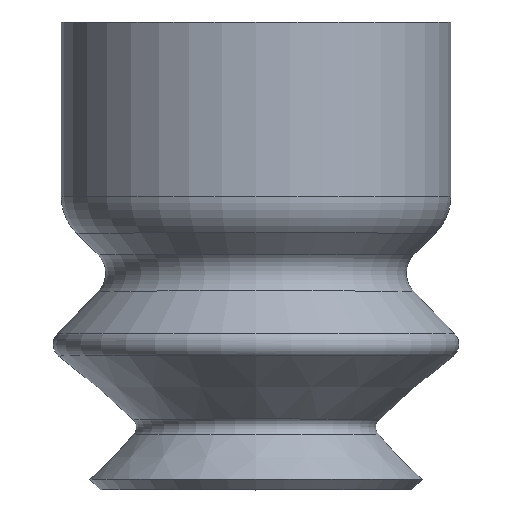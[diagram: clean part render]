
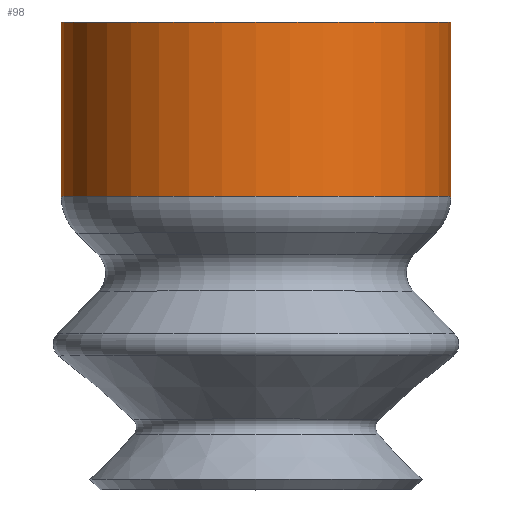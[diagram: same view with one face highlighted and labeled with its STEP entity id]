
A CAD part, top view. The second image highlights one B-rep face of the part: STEP entity #98.
In plain terms, the highlighted cylindrical face has radius 3.75 mm (diameter 7.5 mm), a full revolution.
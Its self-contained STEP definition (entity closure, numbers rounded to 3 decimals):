
#98=ADVANCED_FACE('',(#170,#171),#172,.T.);
#170=FACE_OUTER_BOUND('',#245,.T.);
#171=FACE_OUTER_BOUND('',#246,.T.);
#172=CYLINDRICAL_SURFACE('',#247,3.75);
#245=EDGE_LOOP('',(#366));
#246=EDGE_LOOP('',(#367));
#247=AXIS2_PLACEMENT_3D('',#368,#369,#370);
#366=ORIENTED_EDGE('',*,*,#389,.T.);
#367=ORIENTED_EDGE('',*,*,#400,.T.);
#368=CARTESIAN_POINT('',(0.0,0.0,0.0));
#369=DIRECTION('',(0.0,-1.0,0.));
#370=DIRECTION('',(0.0,0.,-1.0));
#389=EDGE_CURVE('',#427,#427,#428,.T.);
#400=EDGE_CURVE('',#449,#449,#450,.T.);
#427=VERTEX_POINT('',#477);
#428=CIRCLE('',#478,3.75);
#449=VERTEX_POINT('',#499);
#450=CIRCLE('',#500,3.75);
#477=CARTESIAN_POINT('',(0.0,11.613,3.75));
#478=AXIS2_PLACEMENT_3D('',#540,#541,#542);
#499=CARTESIAN_POINT('',(3.75,14.967,0.));
#500=AXIS2_PLACEMENT_3D('',#573,#574,#575);
#540=CARTESIAN_POINT('',(0.0,11.613,0.));
#541=DIRECTION('',(0.0,1.0,0.));
#542=DIRECTION('',(0.0,0.,1.0));
#573=CARTESIAN_POINT('',(0.0,14.967,0.));
#574=DIRECTION('',(0.0,-1.0,0.));
#575=DIRECTION('',(0.0,0.,-1.0));
